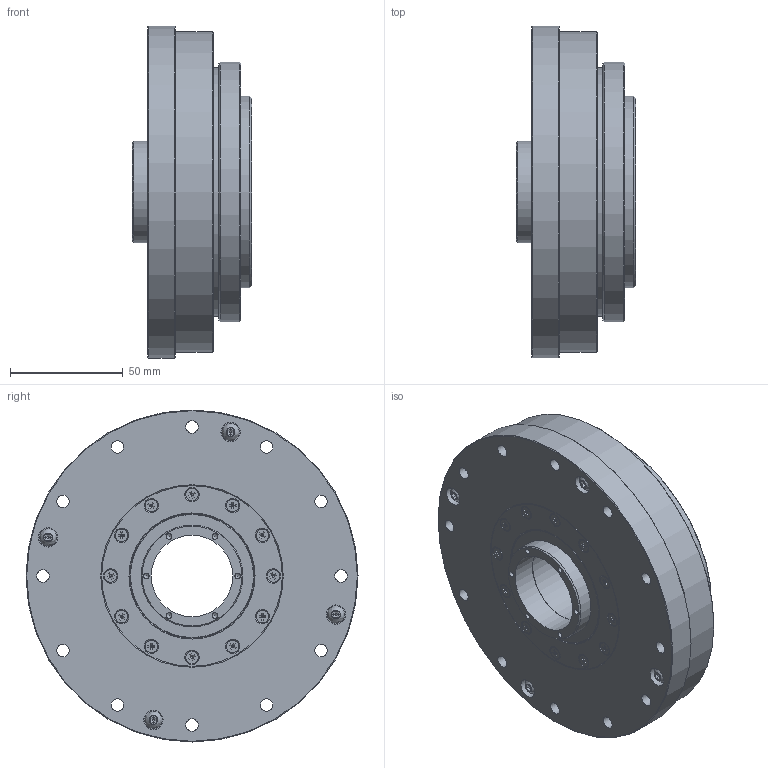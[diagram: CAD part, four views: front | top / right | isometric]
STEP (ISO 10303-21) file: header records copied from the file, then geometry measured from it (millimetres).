
FILE_DESCRIPTION (( 'STEP AP203' ), '1' );
FILE_NAME ('LHD-32-XXX-C(CL)-III.STEP', '2025-01-08T10:33:11', ( '' ), ( '' ), 'SwSTEP 2.0', 'SolidWorks 2023', '' );
FILE_SCHEMA (( 'CONFIG_CONTROL_DESIGN' ));
Length unit declared in the file: metre
Products named in the file (1): LHD-32-XXX-C(CL)-III
Bounding box: 53 x 147 x 147 mm (x, y, z)
Volume: 460677 mm3; surface area: 285901 mm2
Topology: 73 solids, 73 shells, 1683 faces, 4348 edges, 2714 vertices
Faces by surface type: plane 725, cylinder 366, bspline 337, cone 255
Full cylindrical faces by diameter (mm): 2.5 x18, 3 x12, 3.3 x20, 3.4 x12, 4 x20, 4.2 x12, 4.5 x24, 5.5 x72, 7 x12, 8 x12, 8.5 x8, 36 x2, 36.5 x1, 42.5 x2, 44.8 x2, 45 x7, 49 x3, 49.333 x2, 50 x1, 51.6 x1, 52.6 x2, 52.667 x2, 53 x1, 53.667 x2, 55 x4, 55.3 x1, 57.6 x1, 58 x2, 59 x1, 60 x1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
Entity records: 60587 total; most frequent: CARTESIAN_POINT 25279, ORIENTED_EDGE 6904, DIRECTION 6758, EDGE_CURVE 3452, AXIS2_PLACEMENT_3D 2877, EDGE_LOOP 2634, VERTEX_POINT 2472, FACE_OUTER_BOUND 2132
